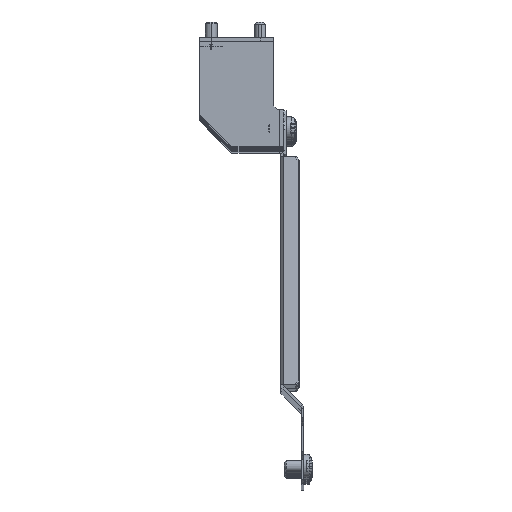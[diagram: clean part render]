
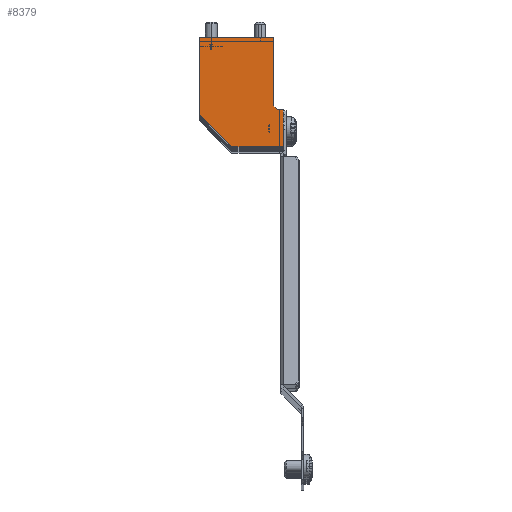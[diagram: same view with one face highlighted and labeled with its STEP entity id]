
A CAD part, top view. The second image highlights one B-rep face of the part: STEP entity #8379.
In plain terms, the highlighted planar face has unit normal (0, 0, 1).
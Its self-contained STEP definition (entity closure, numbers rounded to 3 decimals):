
#503 = ORIENTED_EDGE ( 'NONE', *, *, #31769, .F. ) ;
#1645 = AXIS2_PLACEMENT_3D ( 'NONE', #25306, #23177, #25944 ) ;
#2333 = LINE ( 'NONE', #12606, #18760 ) ;
#2529 = EDGE_CURVE ( 'NONE', #5737, #27171, #18534, .T. ) ;
#2642 = EDGE_LOOP ( 'NONE', ( #14333, #9026, #5156, #25433, #21666, #29779, #22577, #16058, #503, #31801, #13343, #4975 ) ) ;
#3696 = LINE ( 'NONE', #5812, #31999 ) ;
#3923 = LINE ( 'NONE', #18954, #19473 ) ;
#3997 = VERTEX_POINT ( 'NONE', #25033 ) ;
#4367 = CARTESIAN_POINT ( 'NONE',  ( -10.5, 82.5, 935. ) ) ;
#4816 = VERTEX_POINT ( 'NONE', #7642 ) ;
#4962 = VECTOR ( 'NONE', #19726, 1000. ) ;
#4975 = ORIENTED_EDGE ( 'NONE', *, *, #8783, .F. ) ;
#5156 = ORIENTED_EDGE ( 'NONE', *, *, #31684, .T. ) ;
#5429 = EDGE_CURVE ( 'NONE', #16643, #31458, #23427, .T. ) ;
#5737 = VERTEX_POINT ( 'NONE', #18956 ) ;
#5772 = VECTOR ( 'NONE', #20220, 1000. ) ;
#5812 = CARTESIAN_POINT ( 'NONE',  ( -3.5, 82.5, 935. ) ) ;
#5908 = EDGE_CURVE ( 'NONE', #16643, #27171, #3696, .T. ) ;
#5965 = VERTEX_POINT ( 'NONE', #23624 ) ;
#6354 = LINE ( 'NONE', #16180, #10171 ) ;
#6462 = DIRECTION ( 'NONE',  ( 1., 0., 0. ) ) ;
#6866 = VECTOR ( 'NONE', #31295, 1000. ) ;
#7642 = CARTESIAN_POINT ( 'NONE',  ( -1.5, 63.5, 935. ) ) ;
#7788 = CARTESIAN_POINT ( 'NONE',  ( -41.5, 80.074, 935. ) ) ;
#8364 = VERTEX_POINT ( 'NONE', #20893 ) ;
#8379 = ADVANCED_FACE ( 'NONE', ( #10603 ), #10769, .F. ) ;
#8783 = EDGE_CURVE ( 'NONE', #5965, #8364, #17941, .T. ) ;
#8877 = CARTESIAN_POINT ( 'NONE',  ( -6., 87., 935. ) ) ;
#9026 = ORIENTED_EDGE ( 'NONE', *, *, #19059, .T. ) ;
#9624 = VERTEX_POINT ( 'NONE', #15700 ) ;
#9900 = CARTESIAN_POINT ( 'NONE',  ( -10.5, 119.5, 935. ) ) ;
#10171 = VECTOR ( 'NONE', #23669, 1000. ) ;
#10603 = FACE_OUTER_BOUND ( 'NONE', #2642, .T. ) ;
#10769 = PLANE ( 'NONE',  #1645 ) ;
#11212 = LINE ( 'NONE', #4367, #26763 ) ;
#12102 = CARTESIAN_POINT ( 'NONE',  ( 1.5, 63.5, 935. ) ) ;
#12606 = CARTESIAN_POINT ( 'NONE',  ( 1.5, 82.5, 935. ) ) ;
#13343 = ORIENTED_EDGE ( 'NONE', *, *, #29003, .F. ) ;
#13624 = DIRECTION ( 'NONE',  ( -0.707, 0.707, 0. ) ) ;
#14333 = ORIENTED_EDGE ( 'NONE', *, *, #25887, .F. ) ;
#14336 = DIRECTION ( 'NONE',  ( 1., 0., 0. ) ) ;
#15042 = EDGE_CURVE ( 'NONE', #16327, #3997, #3923, .T. ) ;
#15700 = CARTESIAN_POINT ( 'NONE',  ( 1.5, 82., 935. ) ) ;
#15806 = DIRECTION ( 'NONE',  ( 0., -1., 0. ) ) ;
#16058 = ORIENTED_EDGE ( 'NONE', *, *, #5429, .T. ) ;
#16180 = CARTESIAN_POINT ( 'NONE',  ( 1.5, 82.5, 935. ) ) ;
#16327 = VERTEX_POINT ( 'NONE', #24064 ) ;
#16523 = LINE ( 'NONE', #19274, #6866 ) ;
#16643 = VERTEX_POINT ( 'NONE', #20579 ) ;
#16913 = CARTESIAN_POINT ( 'NONE',  ( -24.926, 63.5, 935. ) ) ;
#17749 = DIRECTION ( 'NONE',  ( 0., 1., 0. ) ) ;
#17941 = LINE ( 'NONE', #7788, #5772 ) ;
#18534 = LINE ( 'NONE', #8877, #27997 ) ;
#18760 = VECTOR ( 'NONE', #22266, 1000. ) ;
#18954 = CARTESIAN_POINT ( 'NONE',  ( -41.5, 82.5, 935. ) ) ;
#18956 = CARTESIAN_POINT ( 'NONE',  ( -1.5, 82.5, 935. ) ) ;
#19059 = EDGE_CURVE ( 'NONE', #4816, #28618, #31085, .T. ) ;
#19274 = CARTESIAN_POINT ( 'NONE',  ( -41.5, 116.5, 935. ) ) ;
#19473 = VECTOR ( 'NONE', #26105, 1000. ) ;
#19726 = DIRECTION ( 'NONE',  ( 1., 0., 0. ) ) ;
#19872 = LINE ( 'NONE', #9900, #4962 ) ;
#19971 = CARTESIAN_POINT ( 'NONE',  ( -3.5, 84.5, 935. ) ) ;
#20220 = DIRECTION ( 'NONE',  ( -0.707, 0.707, 0. ) ) ;
#20579 = CARTESIAN_POINT ( 'NONE',  ( -3.5, 116.5, 935. ) ) ;
#20586 = VERTEX_POINT ( 'NONE', #22774 ) ;
#20893 = CARTESIAN_POINT ( 'NONE',  ( -41.5, 80.074, 935. ) ) ;
#21666 = ORIENTED_EDGE ( 'NONE', *, *, #30456, .F. ) ;
#21668 = CARTESIAN_POINT ( 'NONE',  ( -1.5, 63.5, 935. ) ) ;
#22266 = DIRECTION ( 'NONE',  ( 0., 1., 0. ) ) ;
#22424 = VECTOR ( 'NONE', #23906, 1000. ) ;
#22577 = ORIENTED_EDGE ( 'NONE', *, *, #5908, .F. ) ;
#22774 = CARTESIAN_POINT ( 'NONE',  ( 1.5, 82.5, 935. ) ) ;
#23177 = DIRECTION ( 'NONE',  ( 0., 0., -1. ) ) ;
#23427 = LINE ( 'NONE', #30106, #24197 ) ;
#23624 = CARTESIAN_POINT ( 'NONE',  ( -24.926, 63.5, 935. ) ) ;
#23669 = DIRECTION ( 'NONE',  ( 0., 1., 0. ) ) ;
#23906 = DIRECTION ( 'NONE',  ( -1., 0., 0. ) ) ;
#24064 = CARTESIAN_POINT ( 'NONE',  ( -41.5, 116.5, 935. ) ) ;
#24197 = VECTOR ( 'NONE', #17749, 1000. ) ;
#25033 = CARTESIAN_POINT ( 'NONE',  ( -41.5, 119.5, 935. ) ) ;
#25306 = CARTESIAN_POINT ( 'NONE',  ( -10.5, 82.5, 935. ) ) ;
#25433 = ORIENTED_EDGE ( 'NONE', *, *, #25968, .T. ) ;
#25887 = EDGE_CURVE ( 'NONE', #4816, #5965, #26979, .T. ) ;
#25944 = DIRECTION ( 'NONE',  ( -1., 0., 0. ) ) ;
#25968 = EDGE_CURVE ( 'NONE', #9624, #20586, #2333, .T. ) ;
#26105 = DIRECTION ( 'NONE',  ( 0., 1., 0. ) ) ;
#26763 = VECTOR ( 'NONE', #14336, 1000. ) ;
#26979 = LINE ( 'NONE', #16913, #22424 ) ;
#27171 = VERTEX_POINT ( 'NONE', #19971 ) ;
#27997 = VECTOR ( 'NONE', #13624, 1000. ) ;
#28438 = VECTOR ( 'NONE', #6462, 1000. ) ;
#28618 = VERTEX_POINT ( 'NONE', #12102 ) ;
#29003 = EDGE_CURVE ( 'NONE', #8364, #16327, #16523, .T. ) ;
#29779 = ORIENTED_EDGE ( 'NONE', *, *, #2529, .T. ) ;
#29868 = CARTESIAN_POINT ( 'NONE',  ( -3.5, 119.5, 935. ) ) ;
#30106 = CARTESIAN_POINT ( 'NONE',  ( -3.5, 116.5, 935. ) ) ;
#30456 = EDGE_CURVE ( 'NONE', #5737, #20586, #11212, .T. ) ;
#31085 = LINE ( 'NONE', #21668, #28438 ) ;
#31295 = DIRECTION ( 'NONE',  ( 0., 1., 0. ) ) ;
#31458 = VERTEX_POINT ( 'NONE', #29868 ) ;
#31684 = EDGE_CURVE ( 'NONE', #28618, #9624, #6354, .T. ) ;
#31769 = EDGE_CURVE ( 'NONE', #3997, #31458, #19872, .T. ) ;
#31801 = ORIENTED_EDGE ( 'NONE', *, *, #15042, .F. ) ;
#31999 = VECTOR ( 'NONE', #15806, 1000. ) ;
